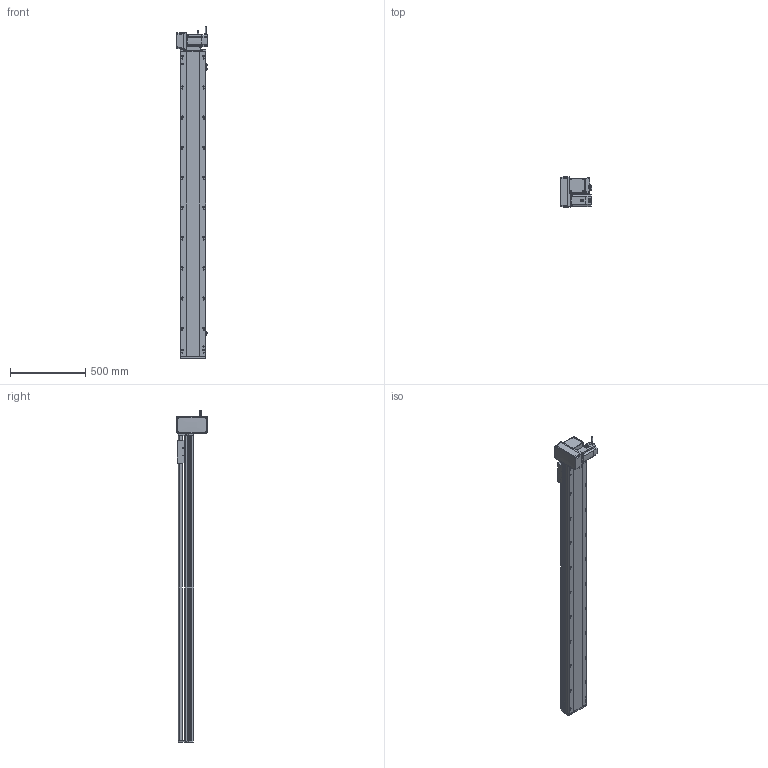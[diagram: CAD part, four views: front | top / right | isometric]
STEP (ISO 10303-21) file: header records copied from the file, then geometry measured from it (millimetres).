
FILE_DESCRIPTION (( 'STEP AP214' ), '1' );
FILE_NAME ('RTB17S-XX-1750-LM-M75-C4.STEP', '2025-12-12T00:42:45', ( '' ), ( '' ), 'SwSTEP 2.0', 'SolidWorks 2018', '' );
FILE_SCHEMA (( 'AUTOMOTIVE_DESIGN' ));
Length unit declared in the file: millimetre
Products named in the file (15): RTB17-R-011菁釱^RTB17S-XX-XX-LM-M75-C4; RTB17S-LM-々湍釱蚾饜-750W^RTB17S-XX-XX-LM-M75-C4; RTB22S-GY-017P^RTB17S-LM-々湍釱蚾饜-750W_RTB17S-XX-XX-LM-M75-C4; RTB17S-XX-1750-LM-M75-C4; RTB17S-L-014-T20-P75--々湍釱^RTB17S-LM-々湍釱蚾饜-750W_RTB17S-XX-XX-LM-M75-C4; RTB17S-L-007奻裔^RTB17S-XX-XX-LM-M75-C4; RTB22S-GY-008-M75--萇儂啣^RTB17S-LM-々湍釱蚾饜-750W_RTB17S-XX-XX-LM-M75-C4; 750W萇儂^RTB17S-XX-XX-LM-M75-C4; RTB17S-賑釱^RTB17S-XX-XX-LM-M75-C4; RTB22S-GY-018P^RTB17S-LM-々湍釱蚾饜-750W_RTB17S-XX-XX-LM-M75-C4; RTH13-BL-012覜茼え俋离^RTB17S-賑釱_RTB17S-XX-XX-LM-M75-C4; RTB17S-L-004-賑釱^RTB17S-賑釱_RTB17S-XX-XX-LM-M75-C4; EE672^RTB17S-XX-XX-LM-M75-C4; RTB22S-GY-005P^RTB17S-LM-々湍釱蚾饜-750W_RTB17S-XX-XX-LM-M75-C4; RTB17S-L-001-耜醱啣^RTB17S-XX-XX-LM-M75-C4
Assembly tree (17 placements, depth 3):
  RTB17S-XX-1750-LM-M75-C4
    RTB17-R-011菁釱^RTB17S-XX-XX-LM-M75-C4
    EE672^RTB17S-XX-XX-LM-M75-C4  x3
    RTB17S-L-001-耜醱啣^RTB17S-XX-XX-LM-M75-C4
    RTB17S-賑釱^RTB17S-XX-XX-LM-M75-C4
      RTB17S-L-004-賑釱^RTB17S-賑釱_RTB17S-XX-XX-LM-M75-C4
      RTH13-BL-012覜茼え俋离^RTB17S-賑釱_RTB17S-XX-XX-LM-M75-C4
    RTB17S-L-007奻裔^RTB17S-XX-XX-LM-M75-C4
    750W萇儂^RTB17S-XX-XX-LM-M75-C4
    RTB17S-LM-々湍釱蚾饜-750W^RTB17S-XX-XX-LM-M75-C4
      RTB17S-L-014-T20-P75--々湍釱^RTB17S-LM-々湍釱蚾饜-750W_RTB17S-XX-XX-LM-M75-C4
      RTB22S-GY-005P^RTB17S-LM-々湍釱蚾饜-750W_RTB17S-XX-XX-LM-M75-C4
      RTB22S-GY-017P^RTB17S-LM-々湍釱蚾饜-750W_RTB17S-XX-XX-LM-M75-C4  x2
      RTB22S-GY-008-M75--萇儂啣^RTB17S-LM-々湍釱蚾饜-750W_RTB17S-XX-XX-LM-M75-C4
      RTB22S-GY-018P^RTB17S-LM-々湍釱蚾饜-750W_RTB17S-XX-XX-LM-M75-C4
Bounding box: 210.4 x 200 x 2202.2 mm (x, y, z)
Volume: 16889508.2 mm3; surface area: 2992166 mm2
Topology: 17 solids, 17 shells, 2153 faces, 5998 edges, 3878 vertices
Faces by surface type: plane 978, cylinder 759, bspline 294, cone 110, sphere 8, torus 4
Entity records: 61174 total; most frequent: CARTESIAN_POINT 18062, ORIENTED_EDGE 8840, DIRECTION 8222, EDGE_CURVE 4420, AXIS2_PLACEMENT_3D 2898, VERTEX_POINT 2882, LINE 2426, VECTOR 2426
